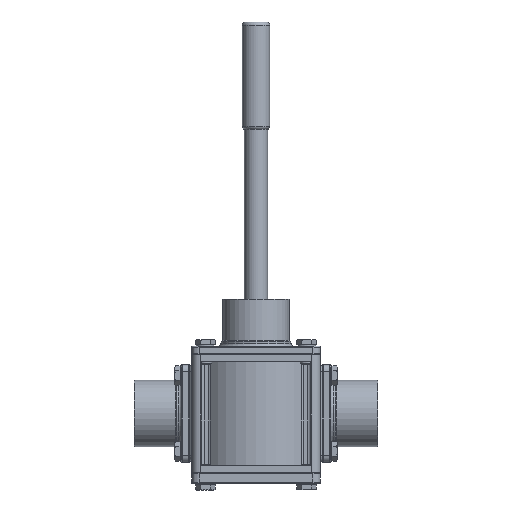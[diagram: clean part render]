
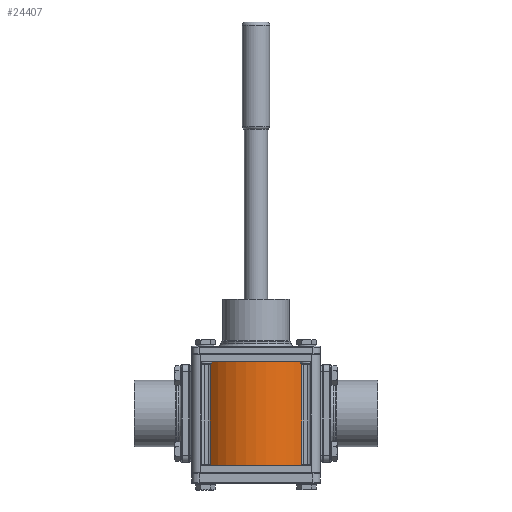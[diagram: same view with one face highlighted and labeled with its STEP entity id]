
A CAD part, front view. The second image highlights one B-rep face of the part: STEP entity #24407.
In plain terms, the highlighted cylindrical face has radius 59 mm (diameter 118 mm), a partial arc.
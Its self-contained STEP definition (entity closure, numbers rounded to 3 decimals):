
#265 = ORIENTED_EDGE ( 'NONE', *, *, #29310, .F. ) ;
#396 = CARTESIAN_POINT ( 'NONE',  ( -43.4, -39.968, -49. ) ) ;
#408 = VECTOR ( 'NONE', #14898, 1000. ) ;
#3000 = EDGE_CURVE ( 'NONE', #3242, #23321, #14836, .T. ) ;
#3242 = VERTEX_POINT ( 'NONE', #11647 ) ;
#3914 = EDGE_LOOP ( 'NONE', ( #10640, #265, #33583, #28429 ) ) ;
#4553 = DIRECTION ( 'NONE',  ( 0., 0., 1. ) ) ;
#5442 = FACE_OUTER_BOUND ( 'NONE', #3914, .T. ) ;
#6093 = CARTESIAN_POINT ( 'NONE',  ( 0., 0., -49. ) ) ;
#7630 = LINE ( 'NONE', #24693, #11670 ) ;
#8107 = LINE ( 'NONE', #396, #408 ) ;
#8902 = DIRECTION ( 'NONE',  ( 1., 0., 0. ) ) ;
#9954 = CIRCLE ( 'NONE', #12157, 59. ) ;
#10640 = ORIENTED_EDGE ( 'NONE', *, *, #3000, .T. ) ;
#11647 = CARTESIAN_POINT ( 'NONE',  ( 43.4, -39.968, 49. ) ) ;
#11670 = VECTOR ( 'NONE', #4553, 1000. ) ;
#12157 = AXIS2_PLACEMENT_3D ( 'NONE', #16395, #25564, #14127 ) ;
#14127 = DIRECTION ( 'NONE',  ( 1., 0., 0. ) ) ;
#14836 = CIRCLE ( 'NONE', #28603, 59. ) ;
#14898 = DIRECTION ( 'NONE',  ( 0., 0., 1. ) ) ;
#16395 = CARTESIAN_POINT ( 'NONE',  ( 0., 0., -49. ) ) ;
#17327 = EDGE_CURVE ( 'NONE', #29246, #34294, #9954, .T. ) ;
#20542 = CARTESIAN_POINT ( 'NONE',  ( -43.4, -39.968, -49. ) ) ;
#23321 = VERTEX_POINT ( 'NONE', #29555 ) ;
#23477 = CARTESIAN_POINT ( 'NONE',  ( 0., 0., 49. ) ) ;
#24407 = ADVANCED_FACE ( 'NONE', ( #5442 ), #27055, .T. ) ;
#24693 = CARTESIAN_POINT ( 'NONE',  ( 43.4, -39.968, -49. ) ) ;
#25564 = DIRECTION ( 'NONE',  ( 0., 0., -1. ) ) ;
#26098 = DIRECTION ( 'NONE',  ( 0., 0., 1. ) ) ;
#26212 = DIRECTION ( 'NONE',  ( 1., 0., 0. ) ) ;
#27055 = CYLINDRICAL_SURFACE ( 'NONE', #31468, 59. ) ;
#28429 = ORIENTED_EDGE ( 'NONE', *, *, #29543, .T. ) ;
#28603 = AXIS2_PLACEMENT_3D ( 'NONE', #23477, #34669, #8902 ) ;
#29246 = VERTEX_POINT ( 'NONE', #31737 ) ;
#29310 = EDGE_CURVE ( 'NONE', #34294, #23321, #8107, .T. ) ;
#29543 = EDGE_CURVE ( 'NONE', #29246, #3242, #7630, .T. ) ;
#29555 = CARTESIAN_POINT ( 'NONE',  ( -43.4, -39.968, 49. ) ) ;
#31468 = AXIS2_PLACEMENT_3D ( 'NONE', #6093, #26098, #26212 ) ;
#31737 = CARTESIAN_POINT ( 'NONE',  ( 43.4, -39.968, -49. ) ) ;
#33583 = ORIENTED_EDGE ( 'NONE', *, *, #17327, .F. ) ;
#34294 = VERTEX_POINT ( 'NONE', #20542 ) ;
#34669 = DIRECTION ( 'NONE',  ( 0., 0., -1. ) ) ;
